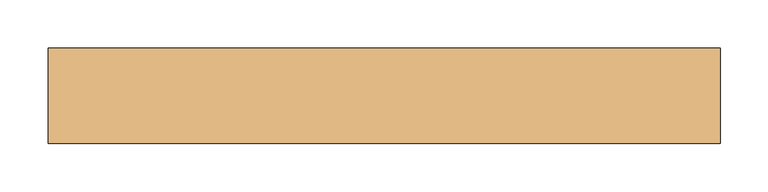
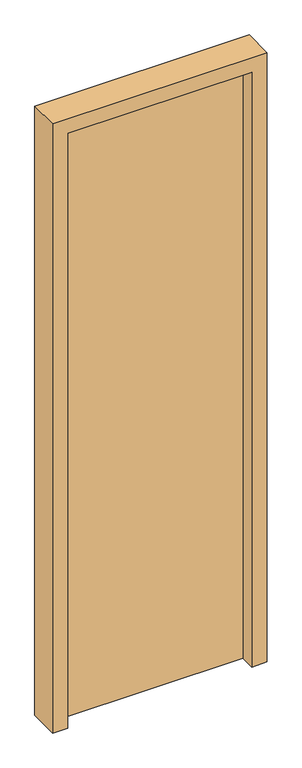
"""IFC4 building model written with IfcOpenShell, lengths in millimetres: door geometry, (Dr)_ДУ(распашная)_1Ст_Прямоугольная : (Вн)_ДГ(0.7х2.1(h))."""

from ifc_helpers import new_model, si_unit, frame, origin, origin_with_axes, place, context, project, spatial, polyline, outline, extrude, source, transform, mapped, element, save


def door_4864a00c(model_context):
    return source(origin(), model_context, "Body", "SweptSolid", [
        extrude(outline(polyline([(-300.0, 100.0), (300.0, 100.0), (300.0, 50.0), (-300.0, 50.0), (-300.0, 100.0)])), origin_with_axes(), (0.0, 0.0, 1.0), 2050.0),
        extrude(outline(polyline([(0.0, -350.0), (0.0, -300.0), (2050.0, -300.0), (2050.0, 300.0), (0.0, 300.0), (0.0, 350.0), (2100.0, 350.0), (2100.0, -350.0), (0.0, -350.0)])), frame((0.0, 0.0, 0.0), z_axis=(0.0, 1.0, 0.0), x_axis=(0.0, 0.0, 1.0)), (0.0, 0.0, 1.0), 100.0),
    ])


if __name__ == "__main__":
    model = new_model("IFC4")
    model_context = context("Model", 3, world=origin())
    ifc_project = project(units=[si_unit("LENGTHUNIT", "METRE", prefix="MILLI")], contexts=[model_context])
    site = spatial("IfcSite", under=ifc_project)
    building = spatial("IfcBuilding", under=site)
    placement = place(None, origin())
    door_shape = door_4864a00c(model_context)
    element("IfcDoor", 1, ObjectType="(Dr)_ДУ(распашная)_1Ст_Прямоугольная : (Вн)_ДГ(0.7х2.1(h))", at=placement, inside=building, context=model_context, shape_type="MappedRepresentation", body=[
        mapped(door_shape, transform((0.0, 0.0, 0.0), x_axis=(1.0, 0.0, 0.0), y_axis=(0.0, 1.0, 0.0), z_axis=(0.0, 0.0, 1.0))),
    ])
    save(model, "model.ifc")
